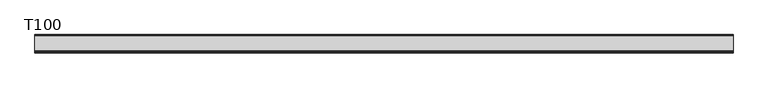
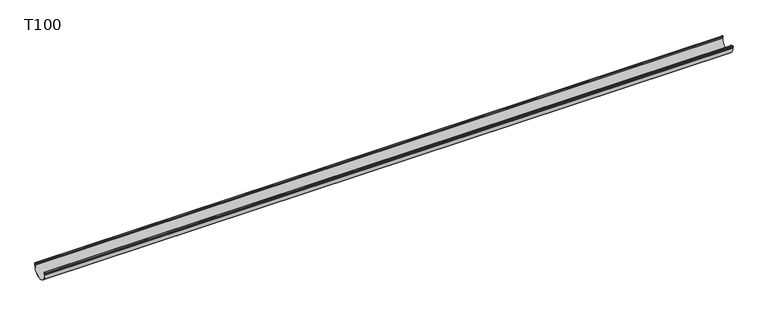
"""IFC4 building model written with IfcOpenShell, lengths in millimetres: proxy geometry, GROVIK_Gutter_Straight : T100."""

import ifcopenshell
import ifcopenshell.guid

model = None  # the IFC model being written
_history = None  # IfcOwnerHistory: only IFC2X3 demands one
_inside = {}  # id of a spatial element -> (the spatial element, [elements in it])
_under = {}  # id of a project, library or spatial element -> (it, [spatial elements below it])
_declared = {}  # id of a project -> (the project, [libraries it declares])
_typed = {}  # id of a type object -> (the type object, [elements of that type])
_made_of = {}  # id of a material, layer set ... -> (it, [elements and type objects made of it])


def new_model(schema):
    """Start an empty IFC model of exactly this schema.

    Asked for "IFC4X3", IfcOpenShell would pick the latest addendum, in which some entities
    have other attributes; the version numbers below select the first issue.
    IFC2X3 requires an IfcOwnerHistory on every rooted entity: one is made here for all.
    """
    global model, _history
    if schema == "IFC4X3":
        model = ifcopenshell.file(schema_version=(4, 3, 0, 0))
    else:
        model = ifcopenshell.file(schema=schema)
    _inside.clear()
    _under.clear()
    _declared.clear()
    _typed.clear()
    _made_of.clear()
    _history = None
    if model.schema == "IFC2X3":
        org = make("IfcOrganization", Name="unknown")
        user = make(
            "IfcPersonAndOrganization",
            ThePerson=make("IfcPerson", FamilyName="unknown"),
            TheOrganization=org,
        )
        app = make(
            "IfcApplication",
            ApplicationDeveloper=org,
            Version="unknown",
            ApplicationFullName="unknown",
            ApplicationIdentifier="unknown",
        )
        _history = make(
            "IfcOwnerHistory",
            OwningUser=user,
            OwningApplication=app,
            ChangeAction="ADDED",
            CreationDate=0,
        )
    return model


def make(cls, **values):
    """One entity of the class cls with the attributes given. An attribute that is None is left unset."""
    return model.create_entity(
        cls, **{name: value for name, value in values.items() if value is not None}
    )


def rooted(cls, **values):
    """An entity with a GlobalId (a new one), such as an element, a storey or a relation."""
    return make(cls, GlobalId=ifcopenshell.guid.new(), OwnerHistory=_history, **values)


def si_unit(unit_type, name, prefix=None):
    """IfcSIUnit, for example si_unit("LENGTHUNIT", "METRE", prefix="MILLI")."""
    return make("IfcSIUnit", UnitType=unit_type, Prefix=prefix, Name=name)


def assignment(units):
    """IfcUnitAssignment: the units of a project."""
    return None if units is None else make("IfcUnitAssignment", Units=units)


def point(xyz):
    """IfcCartesianPoint."""
    return None if xyz is None else make("IfcCartesianPoint", Coordinates=xyz)


def direction(xyz):
    """IfcDirection."""
    return None if xyz is None else make("IfcDirection", DirectionRatios=xyz)


def frame(location, z_axis=None, x_axis=None):
    """IfcAxis2Placement3D, a coordinate frame: its origin and axes. An axis left out is left unset."""
    return make(
        "IfcAxis2Placement3D",
        Location=point(location),
        Axis=direction(z_axis),
        RefDirection=direction(x_axis),
    )


def frame_2d(location, x_axis=None):
    """IfcAxis2Placement2D, a coordinate frame in the plane: its origin and x axis."""
    return make(
        "IfcAxis2Placement2D", Location=point(location), RefDirection=direction(x_axis)
    )


def origin():
    """The frame at (0, 0, 0) with its axes left unset."""
    return frame((0.0, 0.0, 0.0))


def place(relative_to, where):
    """IfcLocalPlacement: puts the frame where relative to a parent placement (None: the world)."""
    return make(
        "IfcLocalPlacement", PlacementRelTo=relative_to, RelativePlacement=where
    )


def context(
    kind, dimensions, precision=None, world=None, true_north=None, identifier=None
):
    """IfcGeometricRepresentationContext, for example the 3D "Model" context."""
    return make(
        "IfcGeometricRepresentationContext",
        ContextIdentifier=identifier,
        ContextType=kind,
        CoordinateSpaceDimension=dimensions,
        Precision=precision,
        WorldCoordinateSystem=world,
        TrueNorth=true_north,
    )


def project(units=None, contexts=None):
    """IfcProject with its units and contexts."""
    return rooted(
        "IfcProject",
        Name="project",
        RepresentationContexts=contexts,
        UnitsInContext=assignment(units),
    )


def spatial(cls, under=None, at=None, **own):
    """A site, building, storey or space (cls), placed at a placement, below another one or the project."""
    s = rooted(cls, ObjectPlacement=at, **own)
    if under is not None:
        _under.setdefault(under.id(), (under, []))[1].append(s)
    return s


def polyline(points):
    """IfcPolyline through the points."""
    return make("IfcPolyline", Points=[point(p) for p in points])


def circle_curve(where, radius):
    """IfcCircle in the frame where."""
    return make("IfcCircle", Position=where, Radius=radius)


def trimmed(basis, trim1, trim2, sense, master):
    """IfcTrimmedCurve: the piece of a basis curve between two trims."""
    return make(
        "IfcTrimmedCurve",
        BasisCurve=basis,
        Trim1=trim1,
        Trim2=trim2,
        SenseAgreement=sense,
        MasterRepresentation=master,
    )


def segment(curve, same_sense, transition):
    """IfcCompositeCurveSegment."""
    return make(
        "IfcCompositeCurveSegment",
        Transition=transition,
        SameSense=same_sense,
        ParentCurve=curve,
    )


def composite_curve(segments, self_intersect=None):
    """IfcCompositeCurve: segments joined end to end."""
    return make("IfcCompositeCurve", Segments=segments, SelfIntersect=self_intersect)


def outline(outer, holes=None, kind="AREA"):
    """IfcArbitraryClosedProfileDef: a profile drawn as a closed curve; with holes, ...WithVoids."""
    if holes is None:
        return make("IfcArbitraryClosedProfileDef", ProfileType=kind, OuterCurve=outer)
    return make(
        "IfcArbitraryProfileDefWithVoids",
        ProfileType=kind,
        OuterCurve=outer,
        InnerCurves=holes,
    )


def extrude(swept, where, along, depth):
    """IfcExtrudedAreaSolid: the profile swept, set in the frame where, extruded along a direction by depth."""
    return make(
        "IfcExtrudedAreaSolid",
        SweptArea=swept,
        Position=where,
        ExtrudedDirection=direction(along),
        Depth=depth,
    )


def shape(context_of_items, identifier, shape_type, items):
    """IfcShapeRepresentation: the items that make up one representation, for example the "Body"."""
    return make(
        "IfcShapeRepresentation",
        ContextOfItems=context_of_items,
        RepresentationIdentifier=identifier,
        RepresentationType=shape_type,
        Items=items,
    )


def source(mapping_origin, context_of_items, identifier, shape_type, items):
    """IfcRepresentationMap: a shape defined once, which mapped items show again and again."""
    return make(
        "IfcRepresentationMap",
        MappingOrigin=mapping_origin,
        MappedRepresentation=shape(context_of_items, identifier, shape_type, items),
    )


def transform(
    local_origin,
    x_axis=None,
    y_axis=None,
    z_axis=None,
    scale=None,
    scale2=None,
    scale3=None,
    uniform=True,
):
    """IfcCartesianTransformationOperator3D, or its non-uniform kind. x_axis, y_axis, z_axis: its Axis1, 2, 3."""
    if uniform:
        return make(
            "IfcCartesianTransformationOperator3D",
            Axis1=direction(x_axis),
            Axis2=direction(y_axis),
            LocalOrigin=point(local_origin),
            Scale=scale,
            Axis3=direction(z_axis),
        )
    return make(
        "IfcCartesianTransformationOperator3DnonUniform",
        Axis1=direction(x_axis),
        Axis2=direction(y_axis),
        LocalOrigin=point(local_origin),
        Scale=scale,
        Axis3=direction(z_axis),
        Scale2=scale2,
        Scale3=scale3,
    )


def mapped(mapping_source, mapping_target):
    """IfcMappedItem: shows the shape of a source again, moved by a transform."""
    return make(
        "IfcMappedItem", MappingSource=mapping_source, MappingTarget=mapping_target
    )


def made_of(thing, what):
    """Note that an element or type object is made of a material, layer set ...; save() writes the relation."""
    if what is not None:
        _made_of.setdefault(what.id(), (what, []))[1].append(thing)
    return thing


def element(
    cls,
    number,
    at=None,
    inside=None,
    cuts=None,
    type_object=None,
    material=None,
    context=None,
    identifier="Body",
    shape_type=None,
    held_by="IfcProductDefinitionShape",
    body=None,
    shapes=None,
    **own,
):
    """One element of the class cls, such as IfcWall. Its Tag is "e" and its number.

    at: its placement. inside: the storey or other place that contains it. cuts: it is an
    opening in that element (IfcRelVoidsElement). A single representation is given by context,
    identifier, shape_type and body (its items); several are given by shapes. held_by: the class
    of the entity that holds the representations. save() writes the other relations.
    """
    e = rooted(cls, Tag="e%d" % number, ObjectPlacement=at, **own)
    if body is not None:
        shapes = [shape(context, identifier, shape_type, body)]
    if shapes is not None:
        e.Representation = make(held_by, Representations=shapes)
    if inside is not None:
        _inside.setdefault(inside.id(), (inside, []))[1].append(e)
    if cuts is not None:
        rooted(
            "IfcRelVoidsElement", RelatingBuildingElement=cuts, RelatedOpeningElement=e
        )
    if type_object is not None:
        _typed.setdefault(type_object.id(), (type_object, []))[1].append(e)
    return made_of(e, material)


def aggregate(whole, parts):
    """IfcRelAggregates: a whole, such as a stair, and the parts it consists of."""
    return rooted("IfcRelAggregates", RelatingObject=whole, RelatedObjects=parts)


def save(model, path):
    """Write the relations noted so far, then the file.

    IfcRelAggregates (storeys below a building ...), IfcRelContainedInSpatialStructure (elements
    in a storey), IfcRelDefinesByType, IfcRelAssociatesMaterial and IfcRelDeclares: one each for
    every whole, place, type object, material and project.
    """
    for whole, parts in _under.values():
        aggregate(whole, parts)
    for where, things in _inside.values():
        rooted(
            "IfcRelContainedInSpatialStructure",
            RelatedElements=things,
            RelatingStructure=where,
        )
    for kind, things in _typed.values():
        rooted("IfcRelDefinesByType", RelatedObjects=things, RelatingType=kind)
    for what, things in _made_of.values():
        rooted("IfcRelAssociatesMaterial", RelatedObjects=things, RelatingMaterial=what)
    for by, libraries in _declared.values():
        rooted("IfcRelDeclares", RelatingContext=by, RelatedDefinitions=libraries)
    model.write(path)


def t100_9e3d697e(model_context):
    return source(origin(), model_context, "Body", "SweptSolid", [
        extrude(outline(composite_curve([segment(polyline([(95.6785725, -12.9222473), (100.8871557, -13.3779392)]), True, "CONTINUOUS"), segment(trimmed(circle_curve(frame_2d((100.8, -14.3741339)), 1.0), [point((100.8871557, -13.3779392))], [point((101.8, -14.3741339))], False, "CARTESIAN"), True, "CONTINUOUS"), segment(polyline([(101.8, -14.3741339), (101.8, -16.3578028)]), True, "CONTINUOUS"), segment(trimmed(circle_curve(frame_2d((50.9, -16.3578028)), 50.9), [point((101.8, -16.3578028))], [point((0.0, -16.3578028))], False, "CARTESIAN"), True, "CONTINUOUS"), segment(polyline([(0.0, -16.3578028), (0.0, -0.5)]), True, "CONTINUOUS"), segment(trimmed(circle_curve(frame_2d((0.5, -0.5)), 0.5), [point((0.0, -0.5))], [point((0.8213938, -0.1169778))], False, "CARTESIAN"), True, "CONTINUOUS"), segment(polyline([(0.8213938, -0.1169778), (6.2279844, -4.6536459), (5.6494755, -5.343086), (0.9, -1.3578028), (0.9, -16.3578028)]), True, "CONTINUOUS"), segment(trimmed(circle_curve(frame_2d((50.9, -16.3578028)), 50.0), [point((0.9, -16.3578028))], [point((100.9, -16.3578028))], True, "CARTESIAN"), True, "CONTINUOUS"), segment(polyline([(100.9, -16.3578028), (100.9, -14.2825008), (95.683723, -13.8261357)]), True, "CONTINUOUS"), segment(trimmed(circle_curve(frame_2d((95.683723, -12.9170968)), 0.909039), [point((95.683723, -13.8261357))], [point((94.7746841, -12.9170968))], False, "CARTESIAN"), True, "CONTINUOUS"), segment(polyline([(94.7746841, -12.9170968), (93.9345391, -3.3141955)]), True, "CONTINUOUS"), segment(trimmed(circle_curve(frame_2d((94.9307338, -3.2270397)), 1.0), [point((93.9345391, -3.3141955))], [point((94.7570856, -2.242232))], False, "CARTESIAN"), True, "CONTINUOUS"), segment(polyline([(94.7570856, -2.242232), (104.6051631, -0.5057503)]), True, "CONTINUOUS"), segment(trimmed(circle_curve(frame_2d((104.6923189, -1.501945)), 1.0), [point((104.6051631, -0.5057503))], [point((105.6885136, -1.4147892))], False, "CARTESIAN"), True, "CONTINUOUS"), segment(polyline([(105.6885136, -1.4147892), (106.1850202, -7.0898858)]), True, "CONTINUOUS"), segment(trimmed(circle_curve(frame_2d((105.1888255, -7.1770416)), 1.0), [point((106.1850202, -7.0898858))], [point((105.0151773, -8.1618494))], False, "CARTESIAN"), True, "CONTINUOUS"), segment(polyline([(105.0151773, -8.1618494), (98.1850202, -6.9575084), (98.3413035, -6.0711813), (105.2998033, -7.2981526), (104.7816977, -1.3761787), (94.8220658, -3.1323306), (95.6785725, -12.9222473)]), True, "CONTINUOUS")], self_intersect=False)), frame((4010.6687898, 0.0, -4.0096688), z_axis=(-0.999999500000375, 0.0, 0.0009999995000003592), x_axis=(0.0, -1.0, 0.0)), (0.0, 0.0, 1.0), 4009.6707946),
    ])


if __name__ == "__main__":
    model = new_model("IFC4")
    model_context = context("Model", 3, world=origin())
    ifc_project = project(units=[si_unit("LENGTHUNIT", "METRE", prefix="MILLI")], contexts=[model_context])
    site = spatial("IfcSite", under=ifc_project)
    building = spatial("IfcBuilding", under=site)
    placement = place(None, origin())
    t100_shape = t100_9e3d697e(model_context)
    element("IfcBuildingElementProxy", 1, Name="GROVIK_Gutter_Straight : T100", ObjectType="GROVIK_Gutter_Straight : T100", at=placement, inside=building, context=model_context, shape_type="MappedRepresentation", body=[
        mapped(t100_shape, transform((0.0, 0.0, 0.0), x_axis=(1.0, 0.0, 0.0), y_axis=(0.0, 1.0, 0.0), z_axis=(0.0, 0.0, 1.0))),
    ])
    save(model, "model.ifc")
